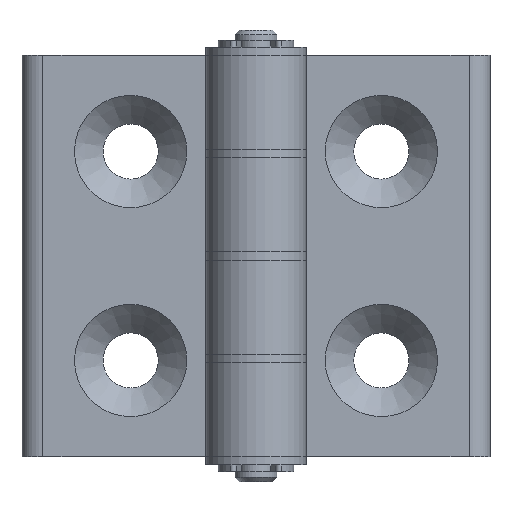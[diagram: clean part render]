
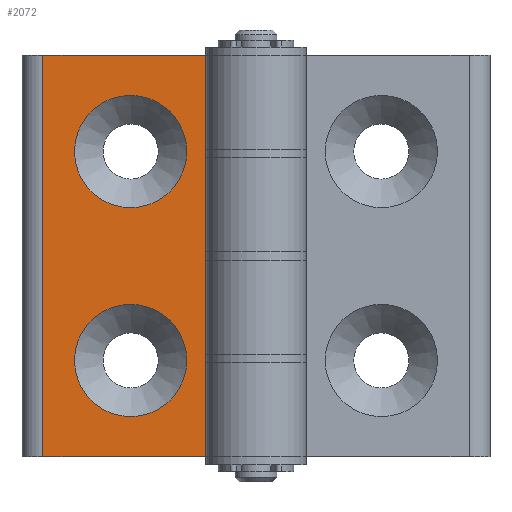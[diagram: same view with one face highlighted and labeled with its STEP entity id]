
A CAD part, front view. The second image highlights one B-rep face of the part: STEP entity #2072.
In plain terms, the highlighted planar face has unit normal (0, -1, 0).
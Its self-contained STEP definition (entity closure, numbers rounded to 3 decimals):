
#34=FACE_BOUND('',#300,.T.);
#35=FACE_BOUND('',#301,.T.);
#66=PLANE('',#2240);
#183=FACE_OUTER_BOUND('',#299,.T.);
#299=EDGE_LOOP('',(#1490,#1491,#1492,#1493,#1494,#1495,#1496));
#300=EDGE_LOOP('',(#1497,#1498));
#301=EDGE_LOOP('',(#1499,#1500));
#440=LINE('',#3253,#589);
#444=LINE('',#3269,#593);
#450=LINE('',#3281,#599);
#452=LINE('',#3286,#601);
#454=LINE('',#3289,#603);
#455=LINE('',#3291,#604);
#456=LINE('',#3292,#605);
#589=VECTOR('',#2548,1000.);
#593=VECTOR('',#2562,1000.);
#599=VECTOR('',#2570,1000.);
#601=VECTOR('',#2576,1000.);
#603=VECTOR('',#2580,1000.);
#604=VECTOR('',#2581,1000.);
#605=VECTOR('',#2582,1000.);
#732=CIRCLE('',#2208,6.72);
#733=CIRCLE('',#2209,6.72);
#738=CIRCLE('',#2216,6.72);
#739=CIRCLE('',#2217,6.72);
#896=VERTEX_POINT('',#3199);
#897=VERTEX_POINT('',#3201);
#902=VERTEX_POINT('',#3215);
#903=VERTEX_POINT('',#3217);
#916=VERTEX_POINT('',#3250);
#917=VERTEX_POINT('',#3252);
#923=VERTEX_POINT('',#3266);
#924=VERTEX_POINT('',#3268);
#928=VERTEX_POINT('',#3278);
#929=VERTEX_POINT('',#3280);
#931=VERTEX_POINT('',#3290);
#1119=EDGE_CURVE('',#896,#897,#732,.T.);
#1120=EDGE_CURVE('',#897,#896,#733,.T.);
#1127=EDGE_CURVE('',#902,#903,#738,.T.);
#1128=EDGE_CURVE('',#903,#902,#739,.T.);
#1144=EDGE_CURVE('',#916,#917,#440,.T.);
#1151=EDGE_CURVE('',#923,#924,#444,.T.);
#1157=EDGE_CURVE('',#929,#928,#450,.T.);
#1160=EDGE_CURVE('',#923,#929,#452,.T.);
#1162=EDGE_CURVE('',#928,#917,#454,.T.);
#1163=EDGE_CURVE('',#916,#931,#455,.T.);
#1164=EDGE_CURVE('',#924,#931,#456,.T.);
#1490=ORIENTED_EDGE('',*,*,#1157,.T.);
#1491=ORIENTED_EDGE('',*,*,#1162,.T.);
#1492=ORIENTED_EDGE('',*,*,#1144,.F.);
#1493=ORIENTED_EDGE('',*,*,#1163,.T.);
#1494=ORIENTED_EDGE('',*,*,#1164,.F.);
#1495=ORIENTED_EDGE('',*,*,#1151,.F.);
#1496=ORIENTED_EDGE('',*,*,#1160,.T.);
#1497=ORIENTED_EDGE('',*,*,#1120,.F.);
#1498=ORIENTED_EDGE('',*,*,#1119,.F.);
#1499=ORIENTED_EDGE('',*,*,#1128,.F.);
#1500=ORIENTED_EDGE('',*,*,#1127,.F.);
#2072=ADVANCED_FACE('',(#183,#34,#35),#66,.F.);
#2208=AXIS2_PLACEMENT_3D('',#3202,#2493,#2494);
#2209=AXIS2_PLACEMENT_3D('',#3203,#2495,#2496);
#2216=AXIS2_PLACEMENT_3D('',#3218,#2511,#2512);
#2217=AXIS2_PLACEMENT_3D('',#3219,#2513,#2514);
#2240=AXIS2_PLACEMENT_3D('',#3288,#2578,#2579);
#2493=DIRECTION('center_axis',(0.,-1.,0.));
#2494=DIRECTION('ref_axis',(0.,0.,
-1.));
#2495=DIRECTION('center_axis',(0.,-1.,0.));
#2496=DIRECTION('ref_axis',(0.,0.,
-1.));
#2511=DIRECTION('center_axis',(0.,-1.,0.));
#2512=DIRECTION('ref_axis',(0.,0.,
-1.));
#2513=DIRECTION('center_axis',(0.,-1.,0.));
#2514=DIRECTION('ref_axis',(0.,0.,
-1.));
#2548=DIRECTION('',(0.,0.,-1.));
#2562=DIRECTION('',(1.,0.,0.));
#2570=DIRECTION('',(1.,0.,0.));
#2576=DIRECTION('',(0.,0.,-1.));
#2578=DIRECTION('center_axis',(0.,1.,0.));
#2579=DIRECTION('ref_axis',(0.,0.,
1.));
#2580=DIRECTION('',(0.,0.,1.));
#2581=DIRECTION('',(0.,0.,1.));
#2582=DIRECTION('',(0.,0.,-1.));
#3199=CARTESIAN_POINT('',(-7.34,0.966,19.22));
#3201=CARTESIAN_POINT('',(-7.34,0.966,5.78));
#3202=CARTESIAN_POINT('Origin',(-7.34,0.966,12.5));
#3203=CARTESIAN_POINT('Origin',(-7.34,0.966,12.5));
#3215=CARTESIAN_POINT('',(-7.34,0.966,-5.78));
#3217=CARTESIAN_POINT('',(-7.34,0.966,-19.22));
#3218=CARTESIAN_POINT('Origin',(-7.34,0.966,-12.5));
#3219=CARTESIAN_POINT('Origin',(-7.34,0.966,-12.5));
#3250=CARTESIAN_POINT('',(1.66,0.966,-0.5));
#3252=CARTESIAN_POINT('',(1.66,0.966,-11.75));
#3253=CARTESIAN_POINT('',(1.66,0.966,24.));
#3266=CARTESIAN_POINT('',(-17.84,0.966,24.));
#3268=CARTESIAN_POINT('',(1.66,0.966,24.));
#3269=CARTESIAN_POINT('',(1.66,0.966,24.));
#3278=CARTESIAN_POINT('',(1.66,0.966,-24.));
#3280=CARTESIAN_POINT('',(-17.84,0.966,-24.));
#3281=CARTESIAN_POINT('',(1.66,0.966,-24.));
#3286=CARTESIAN_POINT('',(-17.84,0.966,24.));
#3288=CARTESIAN_POINT('Origin',(1.66,0.966,24.));
#3289=CARTESIAN_POINT('',(1.66,0.966,24.));
#3290=CARTESIAN_POINT('',(1.66,0.966,12.75));
#3291=CARTESIAN_POINT('',(1.66,0.966,24.));
#3292=CARTESIAN_POINT('',(1.66,0.966,24.));
